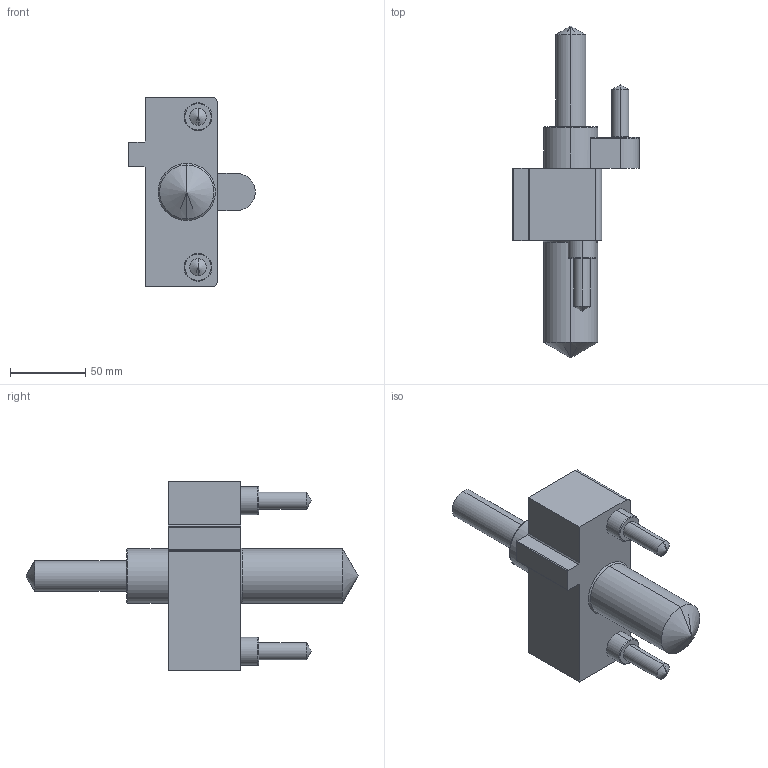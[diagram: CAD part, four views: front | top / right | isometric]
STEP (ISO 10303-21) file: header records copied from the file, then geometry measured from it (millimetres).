
FILE_DESCRIPTION (( 'STEP AP214' ), '1' );
FILE_NAME ('LS30050L_False_cut_LS_sim.STEP', '2024-09-18T09:21:19', ( '' ), ( '' ), 'SwSTEP 2.0', 'SolidWorks 2021', '' );
FILE_SCHEMA (( 'AUTOMOTIVE_DESIGN' ));
Length unit declared in the file: millimetre
Products named in the file (1): LS30050L_False_cut_LS_sim
Bounding box: 84 x 220.5 x 126 mm (x, y, z)
Volume: 448441.1 mm3; surface area: 51603.1 mm2
Topology: 1 solids, 1 shells, 67 faces, 162 edges, 94 vertices
Faces by surface type: cylinder 24, plane 19, cone 16, torus 8
Entity records: 1923 total; most frequent: DIRECTION 355, CARTESIAN_POINT 328, ORIENTED_EDGE 304, EDGE_CURVE 152, AXIS2_PLACEMENT_3D 137, VERTEX_POINT 94, VECTOR 81, LINE 81
